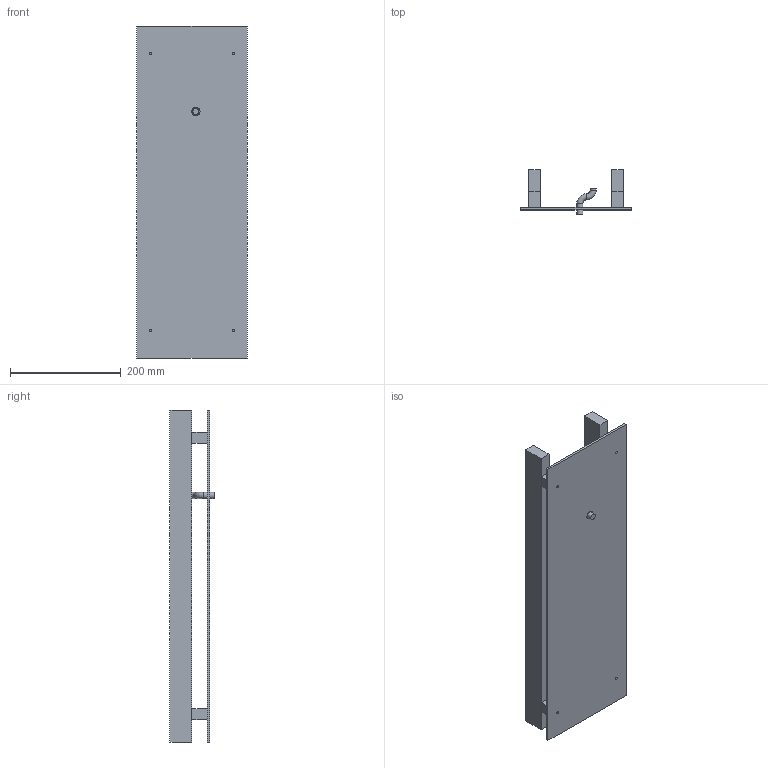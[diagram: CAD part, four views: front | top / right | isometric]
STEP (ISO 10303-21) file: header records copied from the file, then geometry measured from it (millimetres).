
FILE_DESCRIPTION(('Open CASCADE Model'),'2;1');
FILE_NAME('Open CASCADE Shape Model','2026-11-14T16:01:50',('Author'),( 'Open CASCADE'),'Open CASCADE STEP processor 7.9','Open CASCADE 7.9' ,'Unknown');
FILE_SCHEMA(('AUTOMOTIVE_DESIGN { 1 0 10303 214 1 1 1 1 }'));
Length unit declared in the file: millimetre
Products named in the file (9): Open CASCADE STEP translator 7.9 126; Open CASCADE STEP translator 7.9 126.1; Open CASCADE STEP translator 7.9 126.2; Open CASCADE STEP translator 7.9 126.3; Open CASCADE STEP translator 7.9 126.4; Open CASCADE STEP translator 7.9 126.5; Open CASCADE STEP translator 7.9 126.6; Open CASCADE STEP translator 7.9 126.7; Open CASCADE STEP translator 7.9 126.8
Assembly tree (8 placements, depth 2):
  Open CASCADE STEP translator 7.9 126
    Open CASCADE STEP translator 7.9 126.1
    Open CASCADE STEP translator 7.9 126.2
    Open CASCADE STEP translator 7.9 126.3
    Open CASCADE STEP translator 7.9 126.4
    Open CASCADE STEP translator 7.9 126.5
    Open CASCADE STEP translator 7.9 126.6
    Open CASCADE STEP translator 7.9 126.7
    Open CASCADE STEP translator 7.9 126.8
Bounding box: 200 x 79.8 x 600 mm (x, y, z)
Volume: 1478466.6 mm3; surface area: 408497 mm2
Topology: 8 solids, 8 shells, 57 faces, 120 edges, 79 vertices
Faces by surface type: plane 44, cylinder 11, torus 2
Full cylindrical faces by diameter (mm): 4.5 x8, 11 x2, 15 x1
Entity records: 3244 total; most frequent: CARTESIAN_POINT 512, DIRECTION 510, LINE 308, VECTOR 308, ORIENTED_EDGE 240, PCURVE 240, DEFINITIONAL_REPRESENTATION 240, EDGE_CURVE 120
